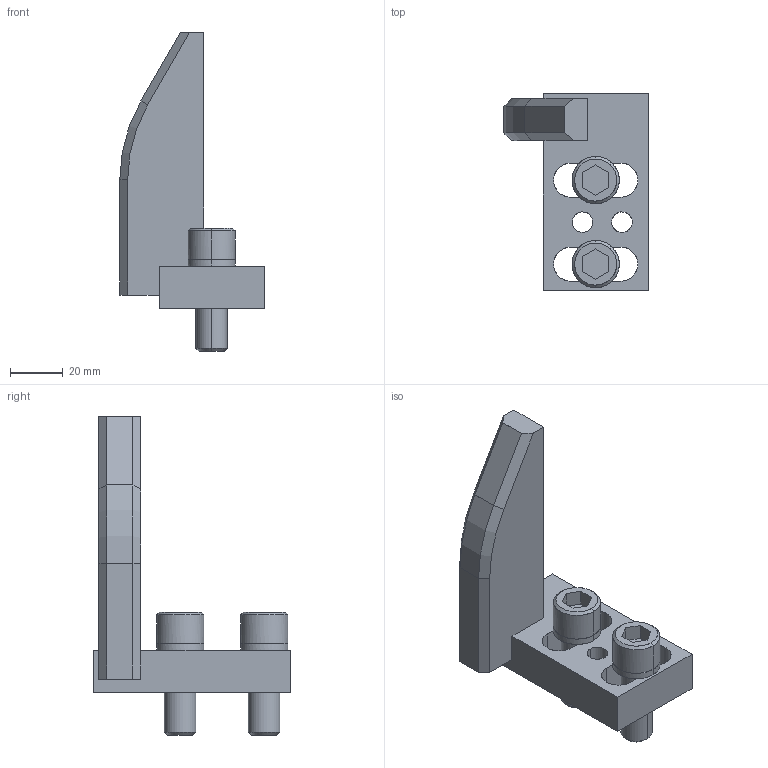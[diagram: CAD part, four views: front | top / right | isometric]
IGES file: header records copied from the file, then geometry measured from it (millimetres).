
Global section: file name: E:\UnigraphicsGraphicData\MISUMI_PRESS-PARTS\IGES\3d_enstr-105-40-m12_01464_r00.igs; native system: NX V5.0; preprocessor: UGS NX IGES V5.0; author: MISUMI; date: 20110105.160633; units: millimetre
Bounding box: 55 x 75 x 121.5 mm (x, y, z)
Surface area: 25324.6 mm2 (no closed solid volume)
Topology: 0 solids, 0 shells, 80 faces, 516 edges, 516 vertices
Faces by surface type: bspline 80
